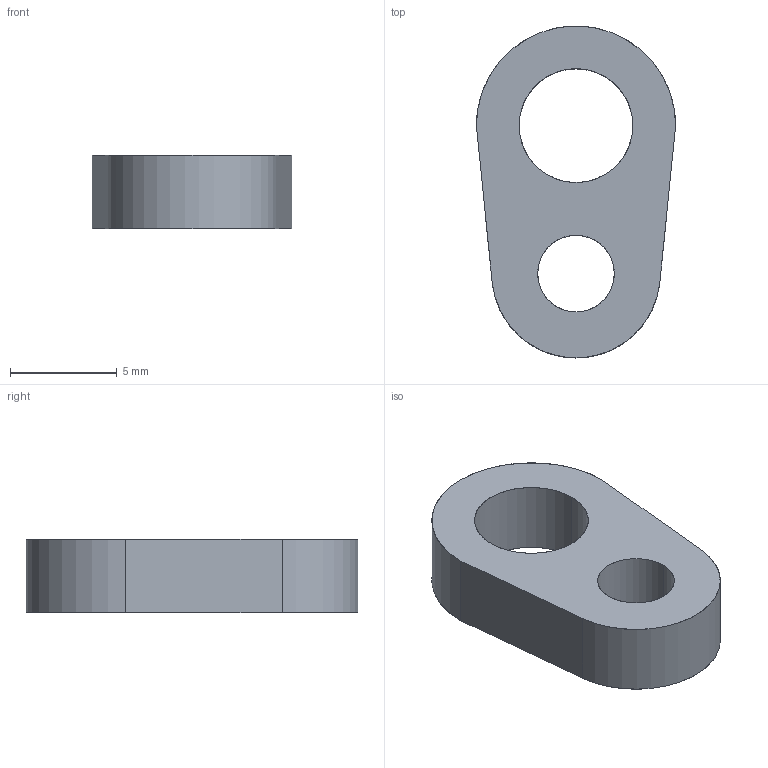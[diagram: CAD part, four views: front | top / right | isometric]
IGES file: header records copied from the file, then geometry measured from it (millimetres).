
Start section: SolidWorks IGES file using analytic representation for surfaces
Global section: file name: \\PSSILO\catalogs\CONTENTCENTRAL\LINK\Cache\2BC14C71-5E66-4B4F-BFA2-CCF8235E1D61.IGS; native system: SolidWorks 2009; preprocessor: SolidWorks 2009; author: partstream; date: 090716.114044; units: inch
Bounding box: 9.35 x 15.57 x 3.43 mm (x, y, z)
Surface area: 409.7 mm2 (no closed solid volume)
Topology: 0 solids, 0 shells, 10 faces, 228 edges, 228 vertices
Faces by surface type: revolution 6, bspline 4
